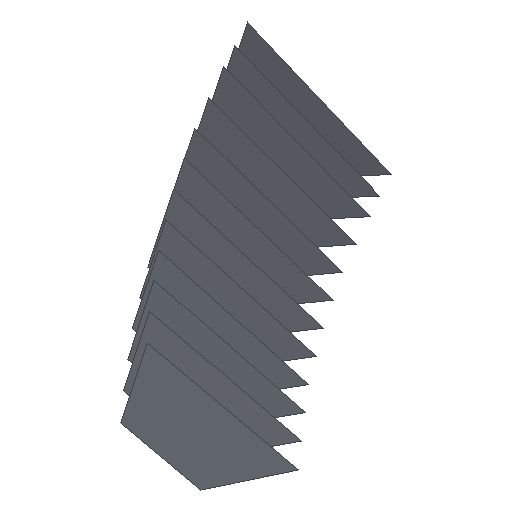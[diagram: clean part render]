
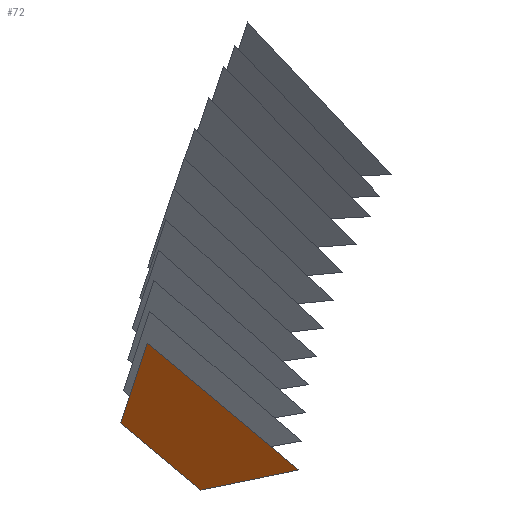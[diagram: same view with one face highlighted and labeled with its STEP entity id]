
A CAD part, isometric view. The second image highlights one B-rep face of the part: STEP entity #72.
In plain terms, the highlighted free-form (B-spline) face has degree [1, 1] with [2, 2] control points.
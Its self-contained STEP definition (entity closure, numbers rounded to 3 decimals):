
#72 = ADVANCED_FACE('',(#73),#86,.T.);
#73 = FACE_BOUND('',#74,.T.);
#74 = EDGE_LOOP('',(#75,#96,#110,#124,#138,#152));
#75 = ORIENTED_EDGE('',*,*,#76,.T.);
#76 = EDGE_CURVE('',#77,#79,#81,.T.);
#77 = VERTEX_POINT('',#78);
#78 = CARTESIAN_POINT('',(37.715,66.3,
    15.017));
#79 = VERTEX_POINT('',#80);
#80 = CARTESIAN_POINT('',(35.017,69.176,18.964
    ));
#81 = SURFACE_CURVE('',#82,(#85),.PCURVE_S1.);
#82 = B_SPLINE_CURVE_WITH_KNOTS('',1,(#83,#84),.UNSPECIFIED.,.F.,.F.,(2,
    2),(0.,5.579),.PIECEWISE_BEZIER_KNOTS.);
#83 = CARTESIAN_POINT('',(37.715,66.3,
    15.017));
#84 = CARTESIAN_POINT('',(35.017,69.176,18.964
    ));
#85 = PCURVE('',#86,#91);
#86 = B_SPLINE_SURFACE_WITH_KNOTS('',1,1,(
    (#87,#88)
    ,(#89,#90
    )),.UNSPECIFIED.,.F.,.F.,.F.,(2,2),(2,2),(-3.797,
    4.967),(-3.786,4.967),
  .PIECEWISE_BEZIER_KNOTS.);
#87 = CARTESIAN_POINT('',(35.014,69.176,15.019
    ));
#88 = CARTESIAN_POINT('',(41.007,62.796,
    15.015));
#89 = CARTESIAN_POINT('',(35.021,69.176,
    23.784));
#90 = CARTESIAN_POINT('',(41.013,62.796,
    23.779));
#91 = DEFINITIONAL_REPRESENTATION('',(#92),#95);
#92 = B_SPLINE_CURVE_WITH_KNOTS('',1,(#93,#94),.UNSPECIFIED.,.F.,.F.,(2,
    2),(0.,5.579),.PIECEWISE_BEZIER_KNOTS.);
#93 = CARTESIAN_POINT('',(-3.797,0.16));
#94 = CARTESIAN_POINT('',(0.147,-3.786));
#95 = ( GEOMETRIC_REPRESENTATION_CONTEXT(2) 
PARAMETRIC_REPRESENTATION_CONTEXT() REPRESENTATION_CONTEXT('2D SPACE',''
  ) );
#96 = ORIENTED_EDGE('',*,*,#97,.T.);
#97 = EDGE_CURVE('',#79,#98,#100,.T.);
#98 = VERTEX_POINT('',#99);
#99 = CARTESIAN_POINT('',(35.904,68.235,23.783
    ));
#100 = SURFACE_CURVE('',#101,(#104),.PCURVE_S1.);
#101 = B_SPLINE_CURVE_WITH_KNOTS('',1,(#102,#103),.UNSPECIFIED.,.F.,.F.,
  (2,2),(0.,4.99),.PIECEWISE_BEZIER_KNOTS.);
#102 = CARTESIAN_POINT('',(35.017,69.176,
    18.964));
#103 = CARTESIAN_POINT('',(35.904,68.235,
    23.783));
#104 = PCURVE('',#86,#105);
#105 = DEFINITIONAL_REPRESENTATION('',(#106),#109);
#106 = B_SPLINE_CURVE_WITH_KNOTS('',1,(#107,#108),.UNSPECIFIED.,.F.,.F.,
  (2,2),(0.,4.99),.PIECEWISE_BEZIER_KNOTS.);
#107 = CARTESIAN_POINT('',(0.147,-3.786));
#108 = CARTESIAN_POINT('',(4.967,-2.495));
#109 = ( GEOMETRIC_REPRESENTATION_CONTEXT(2) 
PARAMETRIC_REPRESENTATION_CONTEXT() REPRESENTATION_CONTEXT('2D SPACE',''
  ) );
#110 = ORIENTED_EDGE('',*,*,#111,.T.);
#111 = EDGE_CURVE('',#98,#112,#114,.T.);
#112 = VERTEX_POINT('',#113);
#113 = CARTESIAN_POINT('',(40.453,63.387,
    17.13));
#114 = SURFACE_CURVE('',#115,(#118),.PCURVE_S1.);
#115 = B_SPLINE_CURVE_WITH_KNOTS('',1,(#116,#117),.UNSPECIFIED.,.F.,.F.,
  (2,2),(0.,9.405),.PIECEWISE_BEZIER_KNOTS.);
#116 = CARTESIAN_POINT('',(35.904,68.235,
    23.783));
#117 = CARTESIAN_POINT('',(40.453,63.387,
    17.13));
#118 = PCURVE('',#86,#119);
#119 = DEFINITIONAL_REPRESENTATION('',(#120),#123);
#120 = B_SPLINE_CURVE_WITH_KNOTS('',1,(#121,#122),.UNSPECIFIED.,.F.,.F.,
  (2,2),(0.,9.405),.PIECEWISE_BEZIER_KNOTS.);
#121 = CARTESIAN_POINT('',(4.967,-2.495));
#122 = CARTESIAN_POINT('',(-1.682,4.156));
#123 = ( GEOMETRIC_REPRESENTATION_CONTEXT(2) 
PARAMETRIC_REPRESENTATION_CONTEXT() REPRESENTATION_CONTEXT('2D SPACE',''
  ) );
#124 = ORIENTED_EDGE('',*,*,#125,.T.);
#125 = EDGE_CURVE('',#112,#126,#128,.T.);
#126 = VERTEX_POINT('',#127);
#127 = CARTESIAN_POINT('',(40.463,63.377,
    17.116));
#128 = SURFACE_CURVE('',#129,(#132),.PCURVE_S1.);
#129 = B_SPLINE_CURVE_WITH_KNOTS('',1,(#130,#131),.UNSPECIFIED.,.F.,.F.,
  (2,2),(0.,0.02),.PIECEWISE_BEZIER_KNOTS.);
#130 = CARTESIAN_POINT('',(40.453,63.387,
    17.13));
#131 = CARTESIAN_POINT('',(40.463,63.377,
    17.116));
#132 = PCURVE('',#86,#133);
#133 = DEFINITIONAL_REPRESENTATION('',(#134),#137);
#134 = B_SPLINE_CURVE_WITH_KNOTS('',1,(#135,#136),.UNSPECIFIED.,.F.,.F.,
  (2,2),(0.,0.02),.PIECEWISE_BEZIER_KNOTS.);
#135 = CARTESIAN_POINT('',(-1.682,4.156));
#136 = CARTESIAN_POINT('',(-1.696,4.17));
#137 = ( GEOMETRIC_REPRESENTATION_CONTEXT(2) 
PARAMETRIC_REPRESENTATION_CONTEXT() REPRESENTATION_CONTEXT('2D SPACE',''
  ) );
#138 = ORIENTED_EDGE('',*,*,#139,.T.);
#139 = EDGE_CURVE('',#126,#140,#142,.T.);
#140 = VERTEX_POINT('',#141);
#141 = CARTESIAN_POINT('',(41.007,62.796,
    16.328));
#142 = SURFACE_CURVE('',#143,(#146),.PCURVE_S1.);
#143 = B_SPLINE_CURVE_WITH_KNOTS('',1,(#144,#145),.UNSPECIFIED.,.F.,.F.,
  (2,2),(0.,1.12),.PIECEWISE_BEZIER_KNOTS.);
#144 = CARTESIAN_POINT('',(40.463,63.377,
    17.116));
#145 = CARTESIAN_POINT('',(41.007,62.796,
    16.328));
#146 = PCURVE('',#86,#147);
#147 = DEFINITIONAL_REPRESENTATION('',(#148),#151);
#148 = B_SPLINE_CURVE_WITH_KNOTS('',1,(#149,#150),.UNSPECIFIED.,.F.,.F.,
  (2,2),(0.,1.12),.PIECEWISE_BEZIER_KNOTS.);
#149 = CARTESIAN_POINT('',(-1.696,4.17));
#150 = CARTESIAN_POINT('',(-2.484,4.967));
#151 = ( GEOMETRIC_REPRESENTATION_CONTEXT(2) 
PARAMETRIC_REPRESENTATION_CONTEXT() REPRESENTATION_CONTEXT('2D SPACE',''
  ) );
#152 = ORIENTED_EDGE('',*,*,#153,.T.);
#153 = EDGE_CURVE('',#140,#77,#154,.T.);
#154 = SURFACE_CURVE('',#155,(#158),.PCURVE_S1.);
#155 = B_SPLINE_CURVE_WITH_KNOTS('',1,(#156,#157),.UNSPECIFIED.,.F.,.F.,
  (2,2),(0.,4.983),.PIECEWISE_BEZIER_KNOTS.);
#156 = CARTESIAN_POINT('',(41.007,62.796,
    16.328));
#157 = CARTESIAN_POINT('',(37.715,66.3,
    15.017));
#158 = PCURVE('',#86,#159);
#159 = DEFINITIONAL_REPRESENTATION('',(#160),#163);
#160 = B_SPLINE_CURVE_WITH_KNOTS('',1,(#161,#162),.UNSPECIFIED.,.F.,.F.,
  (2,2),(0.,4.983),.PIECEWISE_BEZIER_KNOTS.);
#161 = CARTESIAN_POINT('',(-2.484,4.967));
#162 = CARTESIAN_POINT('',(-3.797,0.16));
#163 = ( GEOMETRIC_REPRESENTATION_CONTEXT(2) 
PARAMETRIC_REPRESENTATION_CONTEXT() REPRESENTATION_CONTEXT('2D SPACE',''
  ) );
